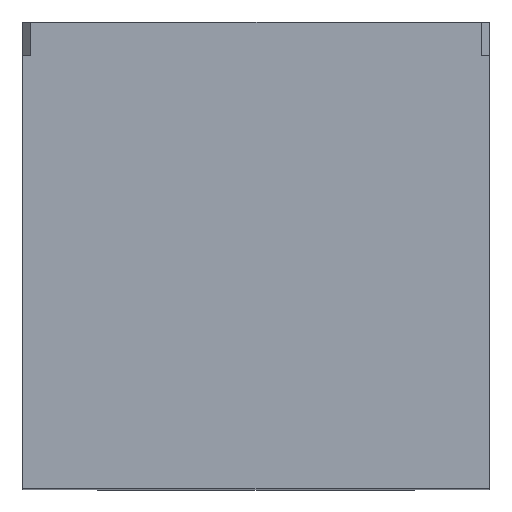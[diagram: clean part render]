
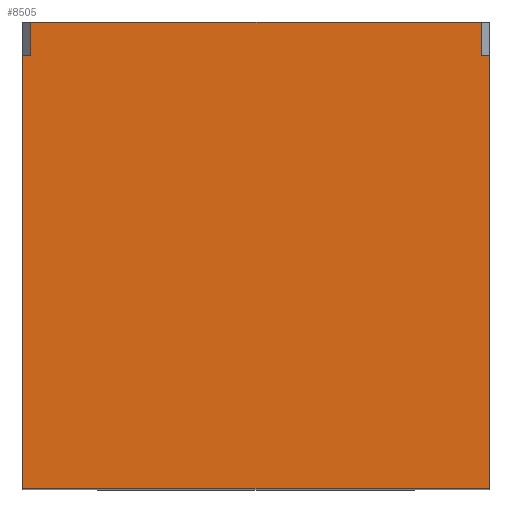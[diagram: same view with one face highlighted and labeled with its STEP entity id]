
A CAD part, top view. The second image highlights one B-rep face of the part: STEP entity #8505.
In plain terms, the highlighted planar face has unit normal (0, 0, 1).
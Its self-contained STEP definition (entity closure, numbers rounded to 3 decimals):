
#16 = EDGE_CURVE ( 'NONE', #6816, #3028, #7917, .T. ) ;
#103 = LINE ( 'NONE', #4168, #4469 ) ;
#145 = CARTESIAN_POINT ( 'NONE',  ( -14., 14., 12.5 ) ) ;
#499 = EDGE_CURVE ( 'NONE', #8587, #6932, #4787, .T. ) ;
#671 = DIRECTION ( 'NONE',  ( 0., 1., 0. ) ) ;
#794 = LINE ( 'NONE', #4723, #6302 ) ;
#1130 = DIRECTION ( 'NONE',  ( 0., -1., 0. ) ) ;
#1137 = CARTESIAN_POINT ( 'NONE',  ( 14., -14., 12.5 ) ) ;
#1224 = LINE ( 'NONE', #1137, #4460 ) ;
#1314 = ORIENTED_EDGE ( 'NONE', *, *, #2074, .F. ) ;
#1324 = ORIENTED_EDGE ( 'NONE', *, *, #5111, .F. ) ;
#1348 = FACE_OUTER_BOUND ( 'NONE', #4127, .T. ) ;
#1470 = LINE ( 'NONE', #4688, #2010 ) ;
#1506 = CARTESIAN_POINT ( 'NONE',  ( -14., 12., 12.5 ) ) ;
#1841 = CARTESIAN_POINT ( 'NONE',  ( -13.5, 14., 12.5 ) ) ;
#2010 = VECTOR ( 'NONE', #3613, 1000. ) ;
#2057 = CARTESIAN_POINT ( 'NONE',  ( 14., -14., 12.5 ) ) ;
#2074 = EDGE_CURVE ( 'NONE', #3252, #6932, #6133, .T. ) ;
#2442 = ORIENTED_EDGE ( 'NONE', *, *, #499, .T. ) ;
#2810 = DIRECTION ( 'NONE',  ( 1., 0., 0. ) ) ;
#3016 = CARTESIAN_POINT ( 'NONE',  ( 13.5, 14., 12.5 ) ) ;
#3028 = VERTEX_POINT ( 'NONE', #7111 ) ;
#3047 = ORIENTED_EDGE ( 'NONE', *, *, #16, .F. ) ;
#3252 = VERTEX_POINT ( 'NONE', #1841 ) ;
#3290 = CARTESIAN_POINT ( 'NONE',  ( 13.5, 14., 12.5 ) ) ;
#3577 = CARTESIAN_POINT ( 'NONE',  ( 14., 12., 12.5 ) ) ;
#3613 = DIRECTION ( 'NONE',  ( 0., -1., 0. ) ) ;
#3882 = DIRECTION ( 'NONE',  ( -1., 0., 0. ) ) ;
#4029 = DIRECTION ( 'NONE',  ( 0., -1., 0. ) ) ;
#4037 = VERTEX_POINT ( 'NONE', #1506 ) ;
#4060 = CARTESIAN_POINT ( 'NONE',  ( 13.5, 12., 12.5 ) ) ;
#4088 = VERTEX_POINT ( 'NONE', #5554 ) ;
#4099 = ORIENTED_EDGE ( 'NONE', *, *, #4732, .F. ) ;
#4103 = DIRECTION ( 'NONE',  ( 0., 0., -1. ) ) ;
#4127 = EDGE_LOOP ( 'NONE', ( #3047, #1324, #2442, #1314, #5749, #4099, #5557, #4216 ) ) ;
#4168 = CARTESIAN_POINT ( 'NONE',  ( -14., 12., 12.5 ) ) ;
#4206 = EDGE_CURVE ( 'NONE', #3028, #4088, #1224, .T. ) ;
#4216 = ORIENTED_EDGE ( 'NONE', *, *, #4206, .F. ) ;
#4303 = VECTOR ( 'NONE', #1130, 1000. ) ;
#4460 = VECTOR ( 'NONE', #3882, 1000. ) ;
#4469 = VECTOR ( 'NONE', #4694, 1000. ) ;
#4688 = CARTESIAN_POINT ( 'NONE',  ( -13.5, 14., 12.5 ) ) ;
#4694 = DIRECTION ( 'NONE',  ( 1., 0., 0. ) ) ;
#4723 = CARTESIAN_POINT ( 'NONE',  ( -14., 12., 12.5 ) ) ;
#4728 = CARTESIAN_POINT ( 'NONE',  ( -14., -14., 12.5 ) ) ;
#4732 = EDGE_CURVE ( 'NONE', #4037, #6368, #103, .T. ) ;
#4787 = LINE ( 'NONE', #3290, #6959 ) ;
#5111 = EDGE_CURVE ( 'NONE', #8587, #6816, #794, .T. ) ;
#5403 = AXIS2_PLACEMENT_3D ( 'NONE', #2057, #4103, #5971 ) ;
#5554 = CARTESIAN_POINT ( 'NONE',  ( -14., -14., 12.5 ) ) ;
#5557 = ORIENTED_EDGE ( 'NONE', *, *, #8284, .T. ) ;
#5749 = ORIENTED_EDGE ( 'NONE', *, *, #8380, .T. ) ;
#5894 = PLANE ( 'NONE',  #5403 ) ;
#5971 = DIRECTION ( 'NONE',  ( -1., 0., 0. ) ) ;
#6044 = LINE ( 'NONE', #4728, #7149 ) ;
#6133 = LINE ( 'NONE', #145, #7264 ) ;
#6145 = CARTESIAN_POINT ( 'NONE',  ( -13.5, 12., 12.5 ) ) ;
#6302 = VECTOR ( 'NONE', #8072, 1000. ) ;
#6368 = VERTEX_POINT ( 'NONE', #6145 ) ;
#6816 = VERTEX_POINT ( 'NONE', #3577 ) ;
#6932 = VERTEX_POINT ( 'NONE', #3016 ) ;
#6959 = VECTOR ( 'NONE', #671, 1000. ) ;
#7098 = CARTESIAN_POINT ( 'NONE',  ( 14., -14., 12.5 ) ) ;
#7111 = CARTESIAN_POINT ( 'NONE',  ( 14., -14., 12.5 ) ) ;
#7149 = VECTOR ( 'NONE', #4029, 1000. ) ;
#7264 = VECTOR ( 'NONE', #2810, 1000. ) ;
#7917 = LINE ( 'NONE', #7098, #4303 ) ;
#8072 = DIRECTION ( 'NONE',  ( 1., 0., 0. ) ) ;
#8284 = EDGE_CURVE ( 'NONE', #4037, #4088, #6044, .T. ) ;
#8380 = EDGE_CURVE ( 'NONE', #3252, #6368, #1470, .T. ) ;
#8505 = ADVANCED_FACE ( 'NONE', ( #1348 ), #5894, .F. ) ;
#8587 = VERTEX_POINT ( 'NONE', #4060 ) ;
